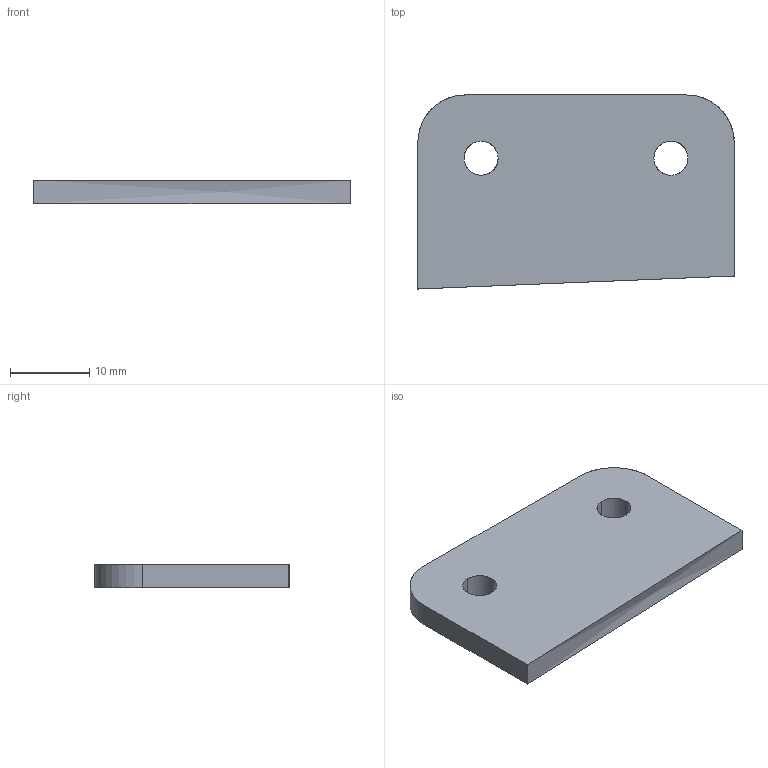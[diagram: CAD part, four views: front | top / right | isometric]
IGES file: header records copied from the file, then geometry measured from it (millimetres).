
Start section: START RECORD GO HERE.
Global section: file name: 20M_AE_11004 (chape bas aile avant).igs; native system: IBM CATIA IGES - CATIA Version 5 Release 19 ; preprocessor: CATIA Version 5 Release 19 ; author: mik75; organization: LAPTOP-SUH344G9; date: 20200116.000633; units: millimetre
Bounding box: 40 x 24.53 x 3 mm (x, y, z)
Surface area: 2239.7 mm2 (no closed solid volume)
Topology: 0 solids, 0 shells, 17 faces, 91 edges, 94 vertices
Faces by surface type: revolution 11, plane 5, extrusion 1
